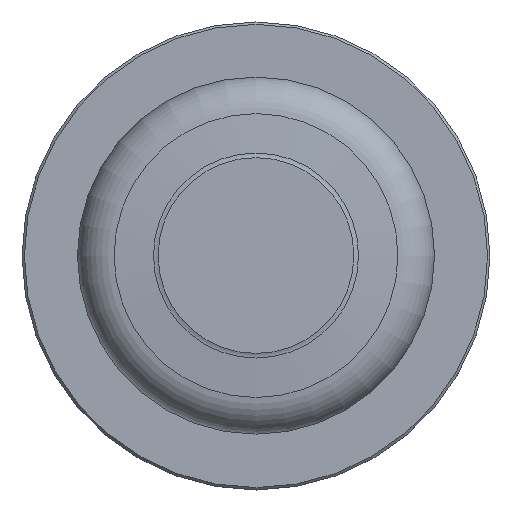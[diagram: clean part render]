
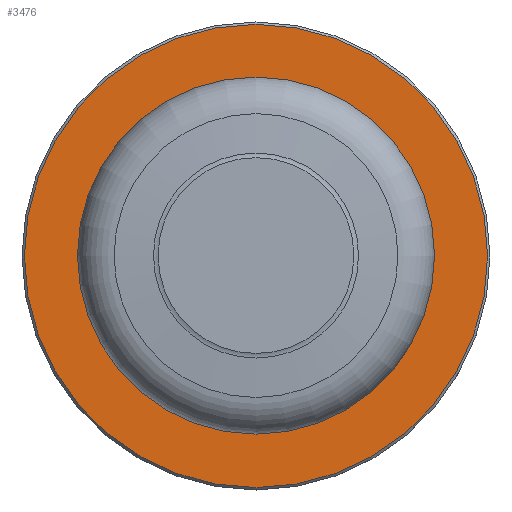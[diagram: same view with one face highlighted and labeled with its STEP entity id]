
A CAD part, top view. The second image highlights one B-rep face of the part: STEP entity #3476.
In plain terms, the highlighted planar face has unit normal (0, 0, 1) as drawn and (0, 1, 0) by its records, which use the part's own axes.
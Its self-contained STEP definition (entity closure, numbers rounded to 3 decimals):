
#3063=FACE_OUTER_BOUND('',#4211,.T.);
#3476=ADVANCED_FACE('AC_MATE2',(#3063),#3787,.F.);
#3787=PLANE('',#7210);
#4211=EDGE_LOOP('',(#4696));
#4696=ORIENTED_EDGE('',*,*,#6350,.T.);
#5900=VERTEX_POINT('',#9154);
#6350=EDGE_CURVE('',#5900,#5900,#6958,.T.);
#6958=CIRCLE('',#7209,24.25);
#7209=AXIS2_PLACEMENT_3D('',#9153,#7813,#7814);
#7210=AXIS2_PLACEMENT_3D('',#9155,#7815,#7816);
#7813=DIRECTION('',(0.,1.,0.));
#7814=DIRECTION('',(1.,0.,0.));
#7815=DIRECTION('',(0.,-1.,0.));
#7816=DIRECTION('',(1.,0.,0.));
#9153=CARTESIAN_POINT('',(0.,14.005,0.));
#9154=CARTESIAN_POINT('',(24.25,14.005,0.));
#9155=CARTESIAN_POINT('',(18.733,14.005,0.));
